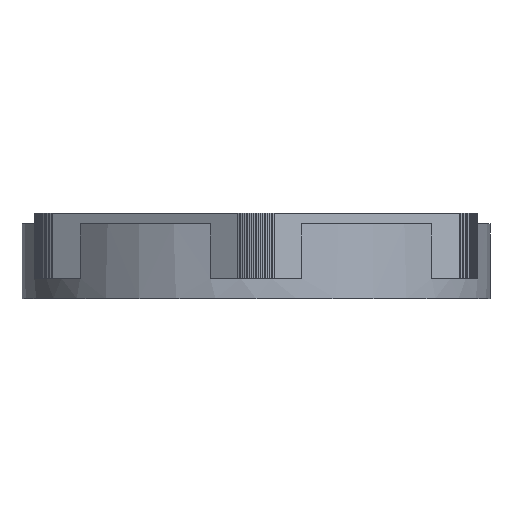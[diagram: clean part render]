
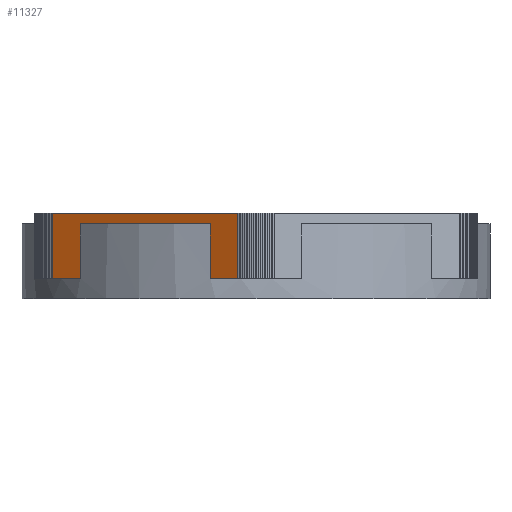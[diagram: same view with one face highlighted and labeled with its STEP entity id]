
A CAD part, left-side view. The second image highlights one B-rep face of the part: STEP entity #11327.
In plain terms, the highlighted planar face has unit normal (-0.866, 0.5, 0).
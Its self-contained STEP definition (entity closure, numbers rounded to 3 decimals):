
#32 = CYLINDRICAL_SURFACE('',#33,28.8);
#33 = AXIS2_PLACEMENT_3D('',#34,#35,#36);
#34 = CARTESIAN_POINT('',(0.,0.,6.1));
#35 = DIRECTION('',(-0.,-0.,-1.));
#36 = DIRECTION('',(1.,0.,0.));
#290 = VERTEX_POINT('',#291);
#291 = CARTESIAN_POINT('',(-19.001,21.643,8.6));
#306 = PLANE('',#307);
#307 = AXIS2_PLACEMENT_3D('',#308,#309,#310);
#308 = CARTESIAN_POINT('',(0.,0.,8.6));
#309 = DIRECTION('',(-0.,-0.,-1.));
#310 = DIRECTION('',(-1.,0.,0.));
#318 = EDGE_CURVE('',#319,#290,#321,.T.);
#319 = VERTEX_POINT('',#320);
#320 = CARTESIAN_POINT('',(-19.001,21.643,15.3));
#321 = SURFACE_CURVE('',#322,(#326,#332),.PCURVE_S1.);
#322 = LINE('',#323,#324);
#323 = CARTESIAN_POINT('',(-19.001,21.643,6.1));
#324 = VECTOR('',#325,1.);
#325 = DIRECTION('',(-0.,-0.,-1.));
#326 = PCURVE('',#32,#327);
#327 = DEFINITIONAL_REPRESENTATION('',(#328),#331);
#328 = B_SPLINE_CURVE_WITH_KNOTS('',1,(#329,#330),.UNSPECIFIED.,.F.,.F.,
  (2,2),(-9.2,-1.7),.PIECEWISE_BEZIER_KNOTS.);
#329 = CARTESIAN_POINT('',(-2.291,-9.2));
#330 = CARTESIAN_POINT('',(-2.291,-1.7));
#331 = ( GEOMETRIC_REPRESENTATION_CONTEXT(2) 
PARAMETRIC_REPRESENTATION_CONTEXT() REPRESENTATION_CONTEXT('2D SPACE',''
  ) );
#332 = PCURVE('',#333,#338);
#333 = PLANE('',#334);
#334 = AXIS2_PLACEMENT_3D('',#335,#336,#337);
#335 = CARTESIAN_POINT('',(-30.197,2.25,8.6));
#336 = DIRECTION('',(-0.866,0.5,0.));
#337 = DIRECTION('',(0.5,0.866,0.));
#338 = DEFINITIONAL_REPRESENTATION('',(#339),#342);
#339 = B_SPLINE_CURVE_WITH_KNOTS('',1,(#340,#341),.UNSPECIFIED.,.F.,.F.,
  (2,2),(-9.2,-1.7),.PIECEWISE_BEZIER_KNOTS.);
#340 = CARTESIAN_POINT('',(22.393,-6.7));
#341 = CARTESIAN_POINT('',(22.393,0.8));
#342 = ( GEOMETRIC_REPRESENTATION_CONTEXT(2) 
PARAMETRIC_REPRESENTATION_CONTEXT() REPRESENTATION_CONTEXT('2D SPACE',''
  ) );
#345 = VERTEX_POINT('',#346);
#346 = CARTESIAN_POINT('',(-28.244,5.634,15.3));
#361 = PLANE('',#362);
#362 = AXIS2_PLACEMENT_3D('',#363,#364,#365);
#363 = CARTESIAN_POINT('',(0.,0.,15.3)
  );
#364 = DIRECTION('',(0.,0.,1.));
#365 = DIRECTION('',(1.,0.,-0.));
#373 = EDGE_CURVE('',#345,#374,#376,.T.);
#374 = VERTEX_POINT('',#375);
#375 = CARTESIAN_POINT('',(-28.244,5.634,8.6));
#376 = SURFACE_CURVE('',#377,(#381,#387),.PCURVE_S1.);
#377 = LINE('',#378,#379);
#378 = CARTESIAN_POINT('',(-28.244,5.634,6.1));
#379 = VECTOR('',#380,1.);
#380 = DIRECTION('',(-0.,-0.,-1.));
#381 = PCURVE('',#32,#382);
#382 = DEFINITIONAL_REPRESENTATION('',(#383),#386);
#383 = B_SPLINE_CURVE_WITH_KNOTS('',1,(#384,#385),.UNSPECIFIED.,.F.,.F.,
  (2,2),(-9.2,-1.7),.PIECEWISE_BEZIER_KNOTS.);
#384 = CARTESIAN_POINT('',(-2.945,-9.2));
#385 = CARTESIAN_POINT('',(-2.945,-1.7));
#386 = ( GEOMETRIC_REPRESENTATION_CONTEXT(2) 
PARAMETRIC_REPRESENTATION_CONTEXT() REPRESENTATION_CONTEXT('2D SPACE',''
  ) );
#387 = PCURVE('',#333,#388);
#388 = DEFINITIONAL_REPRESENTATION('',(#389),#392);
#389 = B_SPLINE_CURVE_WITH_KNOTS('',1,(#390,#391),.UNSPECIFIED.,.F.,.F.,
  (2,2),(-9.2,-1.7),.PIECEWISE_BEZIER_KNOTS.);
#390 = CARTESIAN_POINT('',(3.907,-6.7));
#391 = CARTESIAN_POINT('',(3.907,0.8));
#392 = ( GEOMETRIC_REPRESENTATION_CONTEXT(2) 
PARAMETRIC_REPRESENTATION_CONTEXT() REPRESENTATION_CONTEXT('2D SPACE',''
  ) );
#411 = PLANE('',#412);
#412 = AXIS2_PLACEMENT_3D('',#413,#414,#415);
#413 = CARTESIAN_POINT('',(0.,0.,8.6));
#414 = DIRECTION('',(-0.,-0.,-1.));
#415 = DIRECTION('',(-1.,0.,0.));
#1196 = PLANE('',#1197);
#1197 = AXIS2_PLACEMENT_3D('',#1198,#1199,#1200);
#1198 = CARTESIAN_POINT('',(0.,0.,16.6)
  );
#1199 = DIRECTION('',(-0.,-0.,-1.));
#1200 = DIRECTION('',(-1.,0.,0.));
#4662 = VERTEX_POINT('',#4663);
#4663 = CARTESIAN_POINT('',(-30.197,2.25,16.6));
#4677 = PLANE('',#4678);
#4678 = AXIS2_PLACEMENT_3D('',#4679,#4680,#4681);
#4679 = CARTESIAN_POINT('',(-30.304,2.053,8.6));
#4680 = DIRECTION('',(-0.878,0.478,0.));
#4681 = DIRECTION('',(0.478,0.878,0.));
#4689 = EDGE_CURVE('',#4662,#4690,#4692,.T.);
#4690 = VERTEX_POINT('',#4691);
#4691 = CARTESIAN_POINT('',(-17.047,25.026,16.6));
#4692 = SURFACE_CURVE('',#4693,(#4697,#4704),.PCURVE_S1.);
#4693 = LINE('',#4694,#4695);
#4694 = CARTESIAN_POINT('',(-30.197,2.25,16.6));
#4695 = VECTOR('',#4696,1.);
#4696 = DIRECTION('',(0.5,0.866,0.));
#4697 = PCURVE('',#1196,#4698);
#4698 = DEFINITIONAL_REPRESENTATION('',(#4699),#4703);
#4699 = LINE('',#4700,#4701);
#4700 = CARTESIAN_POINT('',(30.197,2.25));
#4701 = VECTOR('',#4702,1.);
#4702 = DIRECTION('',(-0.5,0.866));
#4703 = ( GEOMETRIC_REPRESENTATION_CONTEXT(2) 
PARAMETRIC_REPRESENTATION_CONTEXT() REPRESENTATION_CONTEXT('2D SPACE',''
  ) );
#4704 = PCURVE('',#333,#4705);
#4705 = DEFINITIONAL_REPRESENTATION('',(#4706),#4710);
#4706 = LINE('',#4707,#4708);
#4707 = CARTESIAN_POINT('',(0.,-8.));
#4708 = VECTOR('',#4709,1.);
#4709 = DIRECTION('',(1.,0.));
#4710 = ( GEOMETRIC_REPRESENTATION_CONTEXT(2) 
PARAMETRIC_REPRESENTATION_CONTEXT() REPRESENTATION_CONTEXT('2D SPACE',''
  ) );
#4728 = PLANE('',#4729);
#4729 = AXIS2_PLACEMENT_3D('',#4730,#4731,#4732);
#4730 = CARTESIAN_POINT('',(-17.047,25.026,8.6));
#4731 = DIRECTION('',(-0.853,0.521,0.));
#4732 = DIRECTION('',(0.521,0.853,0.));
#7931 = EDGE_CURVE('',#7932,#4690,#7934,.T.);
#7932 = VERTEX_POINT('',#7933);
#7933 = CARTESIAN_POINT('',(-17.047,25.026,8.6));
#7934 = SURFACE_CURVE('',#7935,(#7939,#7946),.PCURVE_S1.);
#7935 = LINE('',#7936,#7937);
#7936 = CARTESIAN_POINT('',(-17.047,25.026,8.6));
#7937 = VECTOR('',#7938,1.);
#7938 = DIRECTION('',(0.,0.,1.));
#7939 = PCURVE('',#4728,#7940);
#7940 = DEFINITIONAL_REPRESENTATION('',(#7941),#7945);
#7941 = LINE('',#7942,#7943);
#7942 = CARTESIAN_POINT('',(0.,0.));
#7943 = VECTOR('',#7944,1.);
#7944 = DIRECTION('',(0.,-1.));
#7945 = ( GEOMETRIC_REPRESENTATION_CONTEXT(2) 
PARAMETRIC_REPRESENTATION_CONTEXT() REPRESENTATION_CONTEXT('2D SPACE',''
  ) );
#7946 = PCURVE('',#333,#7947);
#7947 = DEFINITIONAL_REPRESENTATION('',(#7948),#7952);
#7948 = LINE('',#7949,#7950);
#7949 = CARTESIAN_POINT('',(26.3,0.));
#7950 = VECTOR('',#7951,1.);
#7951 = DIRECTION('',(0.,-1.));
#7952 = ( GEOMETRIC_REPRESENTATION_CONTEXT(2) 
PARAMETRIC_REPRESENTATION_CONTEXT() REPRESENTATION_CONTEXT('2D SPACE',''
  ) );
#8004 = EDGE_CURVE('',#8005,#4662,#8007,.T.);
#8005 = VERTEX_POINT('',#8006);
#8006 = CARTESIAN_POINT('',(-30.197,2.25,8.6));
#8007 = SURFACE_CURVE('',#8008,(#8012,#8019),.PCURVE_S1.);
#8008 = LINE('',#8009,#8010);
#8009 = CARTESIAN_POINT('',(-30.197,2.25,8.6));
#8010 = VECTOR('',#8011,1.);
#8011 = DIRECTION('',(0.,0.,1.));
#8012 = PCURVE('',#4677,#8013);
#8013 = DEFINITIONAL_REPRESENTATION('',(#8014),#8018);
#8014 = LINE('',#8015,#8016);
#8015 = CARTESIAN_POINT('',(0.224,0.));
#8016 = VECTOR('',#8017,1.);
#8017 = DIRECTION('',(0.,-1.));
#8018 = ( GEOMETRIC_REPRESENTATION_CONTEXT(2) 
PARAMETRIC_REPRESENTATION_CONTEXT() REPRESENTATION_CONTEXT('2D SPACE',''
  ) );
#8019 = PCURVE('',#333,#8020);
#8020 = DEFINITIONAL_REPRESENTATION('',(#8021),#8025);
#8021 = LINE('',#8022,#8023);
#8022 = CARTESIAN_POINT('',(0.,0.));
#8023 = VECTOR('',#8024,1.);
#8024 = DIRECTION('',(0.,-1.));
#8025 = ( GEOMETRIC_REPRESENTATION_CONTEXT(2) 
PARAMETRIC_REPRESENTATION_CONTEXT() REPRESENTATION_CONTEXT('2D SPACE',''
  ) );
#11263 = EDGE_CURVE('',#290,#7932,#11264,.T.);
#11264 = SURFACE_CURVE('',#11265,(#11269,#11276),.PCURVE_S1.);
#11265 = LINE('',#11266,#11267);
#11266 = CARTESIAN_POINT('',(-30.197,2.25,8.6));
#11267 = VECTOR('',#11268,1.);
#11268 = DIRECTION('',(0.5,0.866,0.));
#11269 = PCURVE('',#306,#11270);
#11270 = DEFINITIONAL_REPRESENTATION('',(#11271),#11275);
#11271 = LINE('',#11272,#11273);
#11272 = CARTESIAN_POINT('',(30.197,2.25));
#11273 = VECTOR('',#11274,1.);
#11274 = DIRECTION('',(-0.5,0.866));
#11275 = ( GEOMETRIC_REPRESENTATION_CONTEXT(2) 
PARAMETRIC_REPRESENTATION_CONTEXT() REPRESENTATION_CONTEXT('2D SPACE',''
  ) );
#11276 = PCURVE('',#333,#11277);
#11277 = DEFINITIONAL_REPRESENTATION('',(#11278),#11282);
#11278 = LINE('',#11279,#11280);
#11279 = CARTESIAN_POINT('',(0.,0.));
#11280 = VECTOR('',#11281,1.);
#11281 = DIRECTION('',(1.,0.));
#11282 = ( GEOMETRIC_REPRESENTATION_CONTEXT(2) 
PARAMETRIC_REPRESENTATION_CONTEXT() REPRESENTATION_CONTEXT('2D SPACE',''
  ) );
#11308 = EDGE_CURVE('',#319,#345,#11309,.T.);
#11309 = SURFACE_CURVE('',#11310,(#11314,#11320),.PCURVE_S1.);
#11310 = LINE('',#11311,#11312);
#11311 = CARTESIAN_POINT('',(-26.91,7.944,15.3));
#11312 = VECTOR('',#11313,1.);
#11313 = DIRECTION('',(-0.5,-0.866,0.));
#11314 = PCURVE('',#361,#11315);
#11315 = DEFINITIONAL_REPRESENTATION('',(#11316),#11319);
#11316 = B_SPLINE_CURVE_WITH_KNOTS('',1,(#11317,#11318),.UNSPECIFIED.,
  .F.,.F.,(2,2),(-19.725,3.781),.PIECEWISE_BEZIER_KNOTS.);
#11317 = CARTESIAN_POINT('',(-17.047,25.026));
#11318 = CARTESIAN_POINT('',(-28.8,4.67));
#11319 = ( GEOMETRIC_REPRESENTATION_CONTEXT(2) 
PARAMETRIC_REPRESENTATION_CONTEXT() REPRESENTATION_CONTEXT('2D SPACE',''
  ) );
#11320 = PCURVE('',#333,#11321);
#11321 = DEFINITIONAL_REPRESENTATION('',(#11322),#11325);
#11322 = B_SPLINE_CURVE_WITH_KNOTS('',1,(#11323,#11324),.UNSPECIFIED.,
  .F.,.F.,(2,2),(-19.725,3.781),.PIECEWISE_BEZIER_KNOTS.);
#11323 = CARTESIAN_POINT('',(26.3,-6.7));
#11324 = CARTESIAN_POINT('',(2.794,-6.7));
#11325 = ( GEOMETRIC_REPRESENTATION_CONTEXT(2) 
PARAMETRIC_REPRESENTATION_CONTEXT() REPRESENTATION_CONTEXT('2D SPACE',''
  ) );
#11327 = ADVANCED_FACE('',(#11328),#333,.T.);
#11328 = FACE_BOUND('',#11329,.T.);
#11329 = EDGE_LOOP('',(#11330,#11351,#11352,#11353,#11354,#11355,#11356,
    #11357));
#11330 = ORIENTED_EDGE('',*,*,#11331,.F.);
#11331 = EDGE_CURVE('',#8005,#374,#11332,.T.);
#11332 = SURFACE_CURVE('',#11333,(#11337,#11344),.PCURVE_S1.);
#11333 = LINE('',#11334,#11335);
#11334 = CARTESIAN_POINT('',(-30.197,2.25,8.6));
#11335 = VECTOR('',#11336,1.);
#11336 = DIRECTION('',(0.5,0.866,0.));
#11337 = PCURVE('',#333,#11338);
#11338 = DEFINITIONAL_REPRESENTATION('',(#11339),#11343);
#11339 = LINE('',#11340,#11341);
#11340 = CARTESIAN_POINT('',(0.,0.));
#11341 = VECTOR('',#11342,1.);
#11342 = DIRECTION('',(1.,0.));
#11343 = ( GEOMETRIC_REPRESENTATION_CONTEXT(2) 
PARAMETRIC_REPRESENTATION_CONTEXT() REPRESENTATION_CONTEXT('2D SPACE',''
  ) );
#11344 = PCURVE('',#411,#11345);
#11345 = DEFINITIONAL_REPRESENTATION('',(#11346),#11350);
#11346 = LINE('',#11347,#11348);
#11347 = CARTESIAN_POINT('',(30.197,2.25));
#11348 = VECTOR('',#11349,1.);
#11349 = DIRECTION('',(-0.5,0.866));
#11350 = ( GEOMETRIC_REPRESENTATION_CONTEXT(2) 
PARAMETRIC_REPRESENTATION_CONTEXT() REPRESENTATION_CONTEXT('2D SPACE',''
  ) );
#11351 = ORIENTED_EDGE('',*,*,#8004,.T.);
#11352 = ORIENTED_EDGE('',*,*,#4689,.T.);
#11353 = ORIENTED_EDGE('',*,*,#7931,.F.);
#11354 = ORIENTED_EDGE('',*,*,#11263,.F.);
#11355 = ORIENTED_EDGE('',*,*,#318,.F.);
#11356 = ORIENTED_EDGE('',*,*,#11308,.T.);
#11357 = ORIENTED_EDGE('',*,*,#373,.T.);
